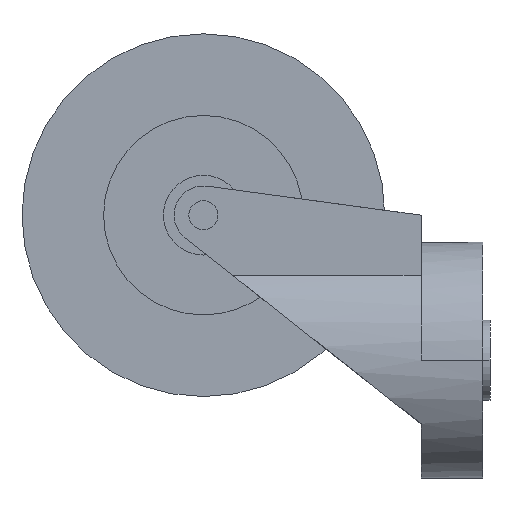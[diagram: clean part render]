
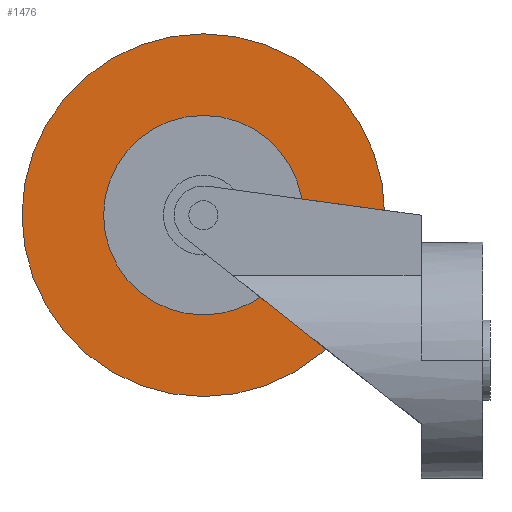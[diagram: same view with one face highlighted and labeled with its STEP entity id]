
A CAD part, left-side view. The second image highlights one B-rep face of the part: STEP entity #1476.
In plain terms, the highlighted planar face has unit normal (-1, 0, 0).
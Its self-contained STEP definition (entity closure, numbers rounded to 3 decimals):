
#1159=CARTESIAN_POINT('',(-15.,0.,0.));
#1160=DIRECTION('',(-1.,0.,0.));
#1161=DIRECTION('',(0.,0.,-1.));
#1162=AXIS2_PLACEMENT_3D('',#1159,#1160,#1161);
#1164=CARTESIAN_POINT('',(-15.,0.,0.));
#1165=DIRECTION('',(1.,0.,0.));
#1166=DIRECTION('',(0.,0.,-1.));
#1167=AXIS2_PLACEMENT_3D('',#1164,#1165,#1166);
#1169=CARTESIAN_POINT('',(-15.,0.,0.));
#1170=DIRECTION('',(1.,0.,0.));
#1171=DIRECTION('',(0.,0.,-1.));
#1172=AXIS2_PLACEMENT_3D('',#1169,#1170,#1171);
#1182=CARTESIAN_POINT('',(-15.,0.,0.));
#1183=DIRECTION('',(-1.,0.,0.));
#1184=DIRECTION('',(0.,0.,-1.));
#1185=AXIS2_PLACEMENT_3D('',#1182,#1183,#1184);
#1280=CARTESIAN_POINT('',(-15.,0.,-50.));
#1282=VERTEX_POINT('',#1280);
#1283=CARTESIAN_POINT('',(-15.,0.,-27.5));
#1285=VERTEX_POINT('',#1283);
#1300=CARTESIAN_POINT('',(-15.,0.,50.));
#1302=VERTEX_POINT('',#1300);
#1303=CARTESIAN_POINT('',(-15.,0.,27.5));
#1305=VERTEX_POINT('',#1303);
#1461=CARTESIAN_POINT('',(-15.,0.,0.));
#1462=DIRECTION('',(1.,0.,0.));
#1463=DIRECTION('',(0.,0.,1.));
#1464=AXIS2_PLACEMENT_3D('',#1461,#1462,#1463);
#1465=PLANE('',#1464);
#1466=ORIENTED_EDGE('',*,*,#1454,.F.);
#1467=ORIENTED_EDGE('',*,*,#1443,.T.);
#1468=EDGE_LOOP('',(#1466,#1467));
#1469=FACE_OUTER_BOUND('',#1468,.F.);
#1471=ORIENTED_EDGE('',*,*,#1470,.F.);
#1473=ORIENTED_EDGE('',*,*,#1472,.T.);
#1474=EDGE_LOOP('',(#1471,#1473));
#1475=FACE_BOUND('',#1474,.F.);
#1476=ADVANCED_FACE('',(#1469,#1475),#1465,.F.);
#1163=CIRCLE('',#1162,50.);
#1168=CIRCLE('',#1167,50.);
#1173=CIRCLE('',#1172,27.5);
#1186=CIRCLE('',#1185,27.5);
#1443=EDGE_CURVE('',#1282,#1302,#1168,.T.);
#1454=EDGE_CURVE('',#1282,#1302,#1163,.T.);
#1470=EDGE_CURVE('',#1285,#1305,#1173,.T.);
#1472=EDGE_CURVE('',#1285,#1305,#1186,.T.);
